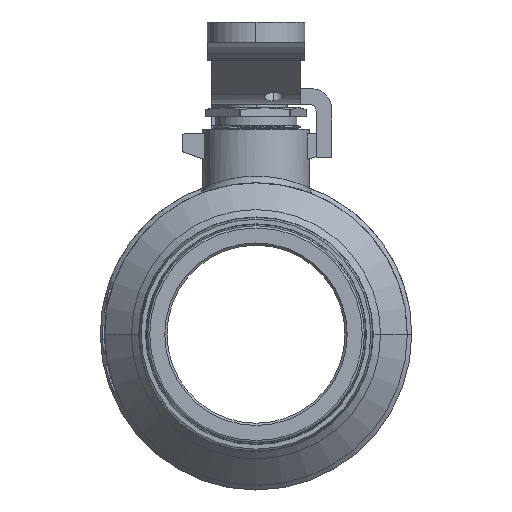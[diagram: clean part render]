
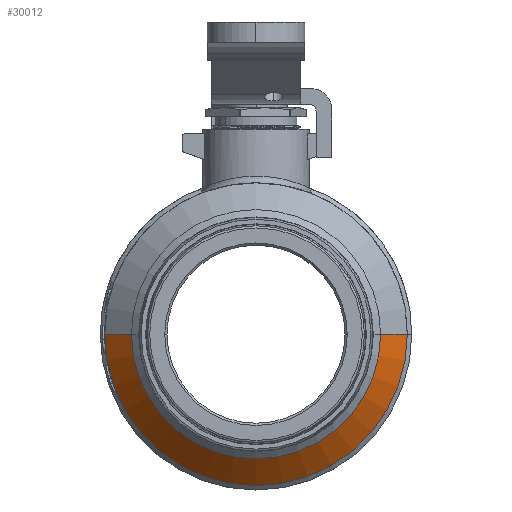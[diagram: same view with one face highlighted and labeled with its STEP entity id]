
A CAD part, left-side view. The second image highlights one B-rep face of the part: STEP entity #30012.
In plain terms, the highlighted conical face has half-angle 45 degrees and reference radius 34 mm.
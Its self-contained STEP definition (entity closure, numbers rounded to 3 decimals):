
#4526 = CYLINDRICAL_SURFACE('',#4527,34.);
#4527 = AXIS2_PLACEMENT_3D('',#4528,#4529,#4530);
#4528 = CARTESIAN_POINT('',(-85.5,-22.75,-22.75));
#4529 = DIRECTION('',(-1.,0.,0.));
#4530 = DIRECTION('',(-0.,-1.,0.));
#4585 = VERTEX_POINT('',#4586);
#4586 = CARTESIAN_POINT('',(-21.5,-50.75,-22.75));
#4587 = VERTEX_POINT('',#4588);
#4588 = CARTESIAN_POINT('',(-21.5,5.25,-22.75));
#4596 = CONICAL_SURFACE('',#4597,34.,0.785);
#4597 = AXIS2_PLACEMENT_3D('',#4598,#4599,#4600);
#4598 = CARTESIAN_POINT('',(-15.5,-22.75,-22.75));
#4599 = DIRECTION('',(1.,0.,0.));
#4600 = DIRECTION('',(-0.,1.,0.));
#4620 = EDGE_CURVE('',#4585,#4621,#4623,.T.);
#4621 = VERTEX_POINT('',#4622);
#4622 = CARTESIAN_POINT('',(-15.5,-56.75,-22.75));
#4623 = SURFACE_CURVE('',#4624,(#4628,#4635),.PCURVE_S1.);
#4624 = LINE('',#4625,#4626);
#4625 = CARTESIAN_POINT('',(-15.5,-56.75,-22.75));
#4626 = VECTOR('',#4627,1.);
#4627 = DIRECTION('',(0.707,-0.707,0.));
#4628 = PCURVE('',#4596,#4629);
#4629 = DEFINITIONAL_REPRESENTATION('',(#4630),#4634);
#4630 = LINE('',#4631,#4632);
#4631 = CARTESIAN_POINT('',(3.142,0.));
#4632 = VECTOR('',#4633,1.);
#4633 = DIRECTION('',(0.,1.));
#4634 = ( GEOMETRIC_REPRESENTATION_CONTEXT(2) 
PARAMETRIC_REPRESENTATION_CONTEXT() REPRESENTATION_CONTEXT('2D SPACE',''
  ) );
#4635 = PCURVE('',#4636,#4641);
#4636 = CONICAL_SURFACE('',#4637,34.,0.785);
#4637 = AXIS2_PLACEMENT_3D('',#4638,#4639,#4640);
#4638 = CARTESIAN_POINT('',(-15.5,-22.75,-22.75));
#4639 = DIRECTION('',(1.,0.,0.));
#4640 = DIRECTION('',(-0.,1.,0.));
#4641 = DEFINITIONAL_REPRESENTATION('',(#4642),#4646);
#4642 = LINE('',#4643,#4644);
#4643 = CARTESIAN_POINT('',(3.142,0.));
#4644 = VECTOR('',#4645,1.);
#4645 = DIRECTION('',(0.,1.));
#4646 = ( GEOMETRIC_REPRESENTATION_CONTEXT(2) 
PARAMETRIC_REPRESENTATION_CONTEXT() REPRESENTATION_CONTEXT('2D SPACE',''
  ) );
#4649 = VERTEX_POINT('',#4650);
#4650 = CARTESIAN_POINT('',(-15.5,11.25,-22.75));
#4672 = EDGE_CURVE('',#4587,#4649,#4673,.T.);
#4673 = SURFACE_CURVE('',#4674,(#4678,#4685),.PCURVE_S1.);
#4674 = LINE('',#4675,#4676);
#4675 = CARTESIAN_POINT('',(-15.5,11.25,-22.75));
#4676 = VECTOR('',#4677,1.);
#4677 = DIRECTION('',(0.707,0.707,0.));
#4678 = PCURVE('',#4596,#4679);
#4679 = DEFINITIONAL_REPRESENTATION('',(#4680),#4684);
#4680 = LINE('',#4681,#4682);
#4681 = CARTESIAN_POINT('',(0.,0.));
#4682 = VECTOR('',#4683,1.);
#4683 = DIRECTION('',(0.,1.));
#4684 = ( GEOMETRIC_REPRESENTATION_CONTEXT(2) 
PARAMETRIC_REPRESENTATION_CONTEXT() REPRESENTATION_CONTEXT('2D SPACE',''
  ) );
#4685 = PCURVE('',#4636,#4686);
#4686 = DEFINITIONAL_REPRESENTATION('',(#4687),#4691);
#4687 = LINE('',#4688,#4689);
#4688 = CARTESIAN_POINT('',(6.283,0.));
#4689 = VECTOR('',#4690,1.);
#4690 = DIRECTION('',(0.,1.));
#4691 = ( GEOMETRIC_REPRESENTATION_CONTEXT(2) 
PARAMETRIC_REPRESENTATION_CONTEXT() REPRESENTATION_CONTEXT('2D SPACE',''
  ) );
#4713 = CYLINDRICAL_SURFACE('',#4714,28.);
#4714 = AXIS2_PLACEMENT_3D('',#4715,#4716,#4717);
#4715 = CARTESIAN_POINT('',(-85.5,-22.75,-22.75));
#4716 = DIRECTION('',(-1.,0.,0.));
#4717 = DIRECTION('',(-0.,-1.,0.));
#16724 = EDGE_CURVE('',#4649,#4621,#16725,.T.);
#16725 = SURFACE_CURVE('',#16726,(#16731,#16738),.PCURVE_S1.);
#16726 = CIRCLE('',#16727,34.);
#16727 = AXIS2_PLACEMENT_3D('',#16728,#16729,#16730);
#16728 = CARTESIAN_POINT('',(-15.5,-22.75,-22.75));
#16729 = DIRECTION('',(-1.,0.,0.));
#16730 = DIRECTION('',(-0.,-1.,0.));
#16731 = PCURVE('',#4526,#16732);
#16732 = DEFINITIONAL_REPRESENTATION('',(#16733),#16737);
#16733 = LINE('',#16734,#16735);
#16734 = CARTESIAN_POINT('',(0.,-70.));
#16735 = VECTOR('',#16736,1.);
#16736 = DIRECTION('',(1.,0.));
#16737 = ( GEOMETRIC_REPRESENTATION_CONTEXT(2) 
PARAMETRIC_REPRESENTATION_CONTEXT() REPRESENTATION_CONTEXT('2D SPACE',''
  ) );
#16738 = PCURVE('',#4636,#16739);
#16739 = DEFINITIONAL_REPRESENTATION('',(#16740),#16744);
#16740 = LINE('',#16741,#16742);
#16741 = CARTESIAN_POINT('',(9.425,0.));
#16742 = VECTOR('',#16743,1.);
#16743 = DIRECTION('',(-1.,0.));
#16744 = ( GEOMETRIC_REPRESENTATION_CONTEXT(2) 
PARAMETRIC_REPRESENTATION_CONTEXT() REPRESENTATION_CONTEXT('2D SPACE',''
  ) );
#29989 = EDGE_CURVE('',#4587,#4585,#29990,.T.);
#29990 = SURFACE_CURVE('',#29991,(#29996,#30003),.PCURVE_S1.);
#29991 = CIRCLE('',#29992,28.);
#29992 = AXIS2_PLACEMENT_3D('',#29993,#29994,#29995);
#29993 = CARTESIAN_POINT('',(-21.5,-22.75,-22.75));
#29994 = DIRECTION('',(-1.,0.,0.));
#29995 = DIRECTION('',(-0.,-1.,0.));
#29996 = PCURVE('',#4713,#29997);
#29997 = DEFINITIONAL_REPRESENTATION('',(#29998),#30002);
#29998 = LINE('',#29999,#30000);
#29999 = CARTESIAN_POINT('',(0.,-64.));
#30000 = VECTOR('',#30001,1.);
#30001 = DIRECTION('',(1.,0.));
#30002 = ( GEOMETRIC_REPRESENTATION_CONTEXT(2) 
PARAMETRIC_REPRESENTATION_CONTEXT() REPRESENTATION_CONTEXT('2D SPACE',''
  ) );
#30003 = PCURVE('',#4636,#30004);
#30004 = DEFINITIONAL_REPRESENTATION('',(#30005),#30009);
#30005 = LINE('',#30006,#30007);
#30006 = CARTESIAN_POINT('',(9.425,-6.));
#30007 = VECTOR('',#30008,1.);
#30008 = DIRECTION('',(-1.,0.));
#30009 = ( GEOMETRIC_REPRESENTATION_CONTEXT(2) 
PARAMETRIC_REPRESENTATION_CONTEXT() REPRESENTATION_CONTEXT('2D SPACE',''
  ) );
#30012 = ADVANCED_FACE('',(#30013),#4636,.T.);
#30013 = FACE_BOUND('',#30014,.T.);
#30014 = EDGE_LOOP('',(#30015,#30016,#30017,#30018));
#30015 = ORIENTED_EDGE('',*,*,#4620,.F.);
#30016 = ORIENTED_EDGE('',*,*,#29989,.F.);
#30017 = ORIENTED_EDGE('',*,*,#4672,.T.);
#30018 = ORIENTED_EDGE('',*,*,#16724,.T.);
